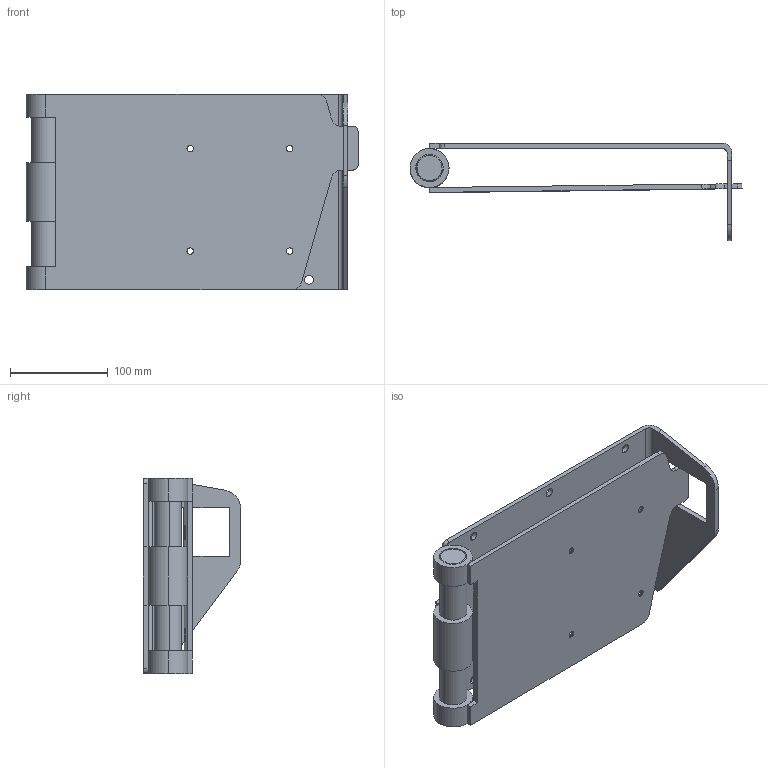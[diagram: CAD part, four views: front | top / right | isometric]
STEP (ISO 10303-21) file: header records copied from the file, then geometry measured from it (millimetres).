
FILE_DESCRIPTION (( 'STEP AP214' ), '1' );
FILE_NAME ('20813-0000_Diffusion.STEP', '2014-10-07T07:29:38', ( 'Jon' ), ( '' ), 'SwSTEP 2.0', 'SolidWorks 2014', '' );
FILE_SCHEMA (( 'AUTOMOTIVE_DESIGN' ));
Length unit declared in the file: millimetre
Products named in the file (4): 20813-0000_Diffusion; 20813-0005; 20813-0003; 20813-0002
Assembly tree (3 placements, depth 2):
  20813-0000_Diffusion
    20813-0005
    20813-0003
    20813-0002
Bounding box: 340.29 x 100 x 200 mm (x, y, z)
Volume: 804346.4 mm3; surface area: 306069.7 mm2
Topology: 6 solids, 6 shells, 120 faces, 316 edges, 208 vertices
Faces by surface type: cylinder 62, plane 48, cone 10
Entity records: 4005 total; most frequent: DIRECTION 704, CARTESIAN_POINT 650, ORIENTED_EDGE 632, EDGE_CURVE 316, AXIS2_PLACEMENT_3D 262, VERTEX_POINT 208, VECTOR 180, LINE 180
